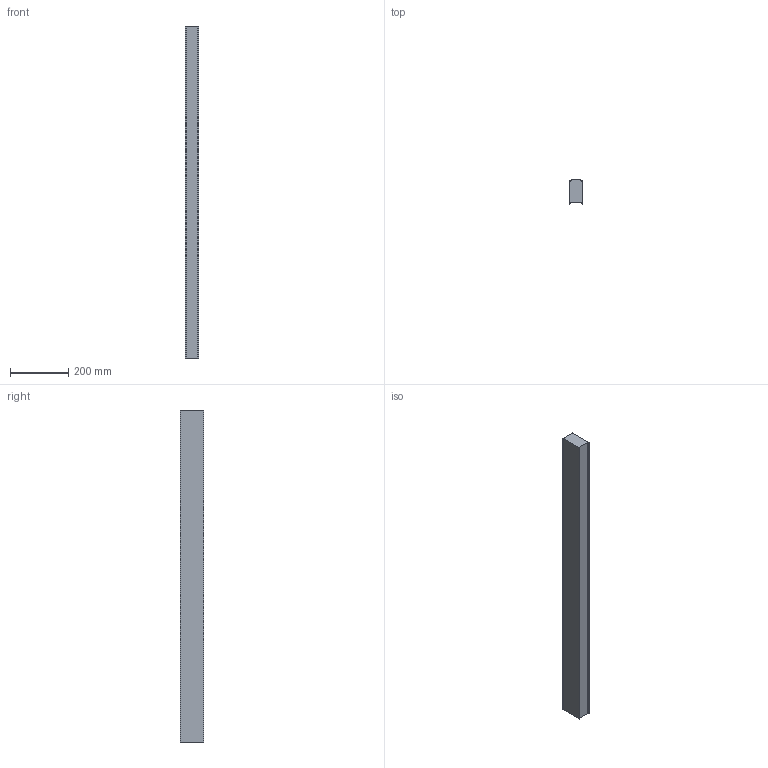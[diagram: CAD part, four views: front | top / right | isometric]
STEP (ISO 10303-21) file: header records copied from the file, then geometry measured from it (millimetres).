
FILE_DESCRIPTION (( 'STEP AP203' ), '1' );
FILE_NAME ('mLight_Swerve 47_L 1136 mm.STEP', '2020-03-31T23:36:27', ( '' ), ( '' ), 'SwSTEP 2.0', 'SolidWorks 2017', '' );
FILE_SCHEMA (( 'CONFIG_CONTROL_DESIGN' ));
Length unit declared in the file: millimetre
Products named in the file (1): mLight_Swerve 47_L 1136 mm
Bounding box: 47 x 80.63 x 1136 mm (x, y, z)
Volume: 4095625.3 mm3; surface area: 320856.2 mm2
Topology: 1 solids, 1 shells, 46 faces, 132 edges, 88 vertices
Faces by surface type: cylinder 24, plane 22
Entity records: 1601 total; most frequent: DIRECTION 274, CARTESIAN_POINT 267, ORIENTED_EDGE 264, EDGE_CURVE 132, AXIS2_PLACEMENT_3D 95, VERTEX_POINT 88, LINE 84, VECTOR 84
